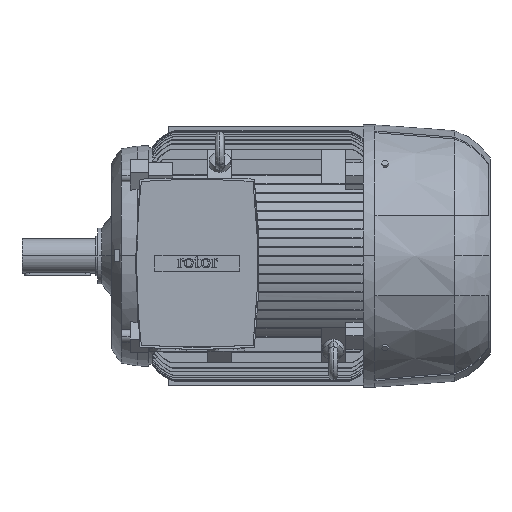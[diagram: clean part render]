
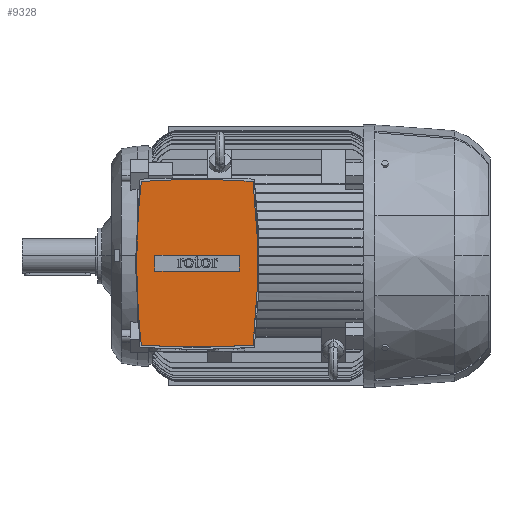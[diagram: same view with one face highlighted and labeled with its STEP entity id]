
A CAD part, top view. The second image highlights one B-rep face of the part: STEP entity #9328.
In plain terms, the highlighted planar face has unit normal (0, 0, 1).
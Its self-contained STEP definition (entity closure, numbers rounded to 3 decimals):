
#1093 = CIRCLE ( 'NONE', #15184, 1403.6 ) ;
#1765 = DIRECTION ( 'NONE',  ( -1., 0., 0. ) ) ;
#3617 = AXIS2_PLACEMENT_3D ( 'NONE', #30927, #31795, #32147 ) ;
#3917 = CARTESIAN_POINT ( 'NONE',  ( 92., -29.5, 410. ) ) ;
#4782 = ORIENTED_EDGE ( 'NONE', *, *, #35733, .F. ) ;
#4812 = CARTESIAN_POINT ( 'NONE',  ( 172., -29.5, 410. ) ) ;
#6155 = VECTOR ( 'NONE', #14984, 1000. ) ;
#6252 = LINE ( 'NONE', #49562, #6155 ) ;
#6476 = EDGE_LOOP ( 'NONE', ( #40684, #4782, #27539, #50854, #22419 ) ) ;
#6526 = VERTEX_POINT ( 'NONE', #17008 ) ;
#7005 = VECTOR ( 'NONE', #36252, 1000. ) ;
#7063 = DIRECTION ( 'NONE',  ( 0., 0., -1. ) ) ;
#7401 = CIRCLE ( 'NONE', #26388, 1403.6 ) ;
#7510 = EDGE_CURVE ( 'NONE', #55130, #37878, #1093, .T. ) ;
#7621 = LINE ( 'NONE', #31916, #7005 ) ;
#8543 = VERTEX_POINT ( 'NONE', #17320 ) ;
#9328 = ADVANCED_FACE ( 'NONE', ( #11855, #11099 ), #31541, .T. ) ;
#9750 = VECTOR ( 'NONE', #42910, 1000. ) ;
#10160 = LINE ( 'NONE', #25372, #9750 ) ;
#10745 = VERTEX_POINT ( 'NONE', #50428 ) ;
#11099 = FACE_BOUND ( 'NONE', #44108, .T. ) ;
#11845 = VERTEX_POINT ( 'NONE', #30394 ) ;
#11855 = FACE_OUTER_BOUND ( 'NONE', #6476, .T. ) ;
#14052 = AXIS2_PLACEMENT_3D ( 'NONE', #15991, #46225, #20351 ) ;
#14984 = DIRECTION ( 'NONE',  ( 0., -1., 0. ) ) ;
#15184 = AXIS2_PLACEMENT_3D ( 'NONE', #51731, #51795, #51871 ) ;
#15887 = AXIS2_PLACEMENT_3D ( 'NONE', #53601, #27627, #1765 ) ;
#15991 = CARTESIAN_POINT ( 'NONE',  ( 92., -1295.44, 410. ) ) ;
#17008 = CARTESIAN_POINT ( 'NONE',  ( 12., -29.5, 410. ) ) ;
#17320 = CARTESIAN_POINT ( 'NONE',  ( 197.904, -169.6, 410. ) ) ;
#17961 = VECTOR ( 'NONE', #25611, 1000. ) ;
#18358 = CIRCLE ( 'NONE', #38978, 1439.94 ) ;
#18712 = LINE ( 'NONE', #3917, #17961 ) ;
#20351 = DIRECTION ( 'NONE',  ( -1., 0., 0. ) ) ;
#20637 = CARTESIAN_POINT ( 'NONE',  ( -1197.1, -14.5, 410. ) ) ;
#20724 = CARTESIAN_POINT ( 'NONE',  ( -13.904, -169.6, 410. ) ) ;
#22419 = ORIENTED_EDGE ( 'NONE', *, *, #36158, .F. ) ;
#23127 = ORIENTED_EDGE ( 'NONE', *, *, #34019, .T. ) ;
#24991 = DIRECTION ( 'NONE',  ( -1., 0., 0. ) ) ;
#25372 = CARTESIAN_POINT ( 'NONE',  ( 12., -14.5, 410. ) ) ;
#25611 = DIRECTION ( 'NONE',  ( -1., 0., 0. ) ) ;
#26300 = ORIENTED_EDGE ( 'NONE', *, *, #34849, .T. ) ;
#26317 = CARTESIAN_POINT ( 'NONE',  ( 172., 0.5, 410. ) ) ;
#26388 = AXIS2_PLACEMENT_3D ( 'NONE', #20637, #50928, #24991 ) ;
#27539 = ORIENTED_EDGE ( 'NONE', *, *, #7510, .F. ) ;
#27627 = DIRECTION ( 'NONE',  ( 0., 0., -1. ) ) ;
#27930 = VERTEX_POINT ( 'NONE', #39658 ) ;
#30394 = CARTESIAN_POINT ( 'NONE',  ( -13.904, 140.6, 410. ) ) ;
#30927 = CARTESIAN_POINT ( 'NONE',  ( 92., -14.5, 410. ) ) ;
#31541 = PLANE ( 'NONE',  #3617 ) ;
#31795 = DIRECTION ( 'NONE',  ( 0., 0., 1. ) ) ;
#31916 = CARTESIAN_POINT ( 'NONE',  ( 92., 0.5, 410. ) ) ;
#32147 = DIRECTION ( 'NONE',  ( 1., 0., 0. ) ) ;
#32895 = CARTESIAN_POINT ( 'NONE',  ( 92., 1266.44, 410. ) ) ;
#34019 = EDGE_CURVE ( 'NONE', #42352, #6526, #18712, .T. ) ;
#34586 = EDGE_CURVE ( 'NONE', #6526, #10745, #10160, .T. ) ;
#34771 = EDGE_CURVE ( 'NONE', #10745, #52407, #7621, .T. ) ;
#34849 = EDGE_CURVE ( 'NONE', #52407, #42352, #6252, .T. ) ;
#35293 = CIRCLE ( 'NONE', #15887, 1403.6 ) ;
#35419 = EDGE_CURVE ( 'NONE', #11845, #27930, #41752, .T. ) ;
#35461 = ORIENTED_EDGE ( 'NONE', *, *, #34586, .T. ) ;
#35733 = EDGE_CURVE ( 'NONE', #37878, #11845, #35293, .T. ) ;
#35851 = EDGE_CURVE ( 'NONE', #8543, #55130, #18358, .T. ) ;
#36158 = EDGE_CURVE ( 'NONE', #27930, #8543, #7401, .T. ) ;
#36252 = DIRECTION ( 'NONE',  ( 1., 0., 0. ) ) ;
#37222 = DIRECTION ( 'NONE',  ( -1., 0., 0. ) ) ;
#37878 = VERTEX_POINT ( 'NONE', #45104 ) ;
#38978 = AXIS2_PLACEMENT_3D ( 'NONE', #32895, #7063, #37222 ) ;
#39658 = CARTESIAN_POINT ( 'NONE',  ( 197.904, 140.6, 410. ) ) ;
#40684 = ORIENTED_EDGE ( 'NONE', *, *, #35419, .F. ) ;
#41752 = CIRCLE ( 'NONE', #14052, 1439.94 ) ;
#42352 = VERTEX_POINT ( 'NONE', #4812 ) ;
#42910 = DIRECTION ( 'NONE',  ( 0., 1., 0. ) ) ;
#44108 = EDGE_LOOP ( 'NONE', ( #50049, #26300, #23127, #35461 ) ) ;
#45104 = CARTESIAN_POINT ( 'NONE',  ( -22.5, -14.5, 410. ) ) ;
#46225 = DIRECTION ( 'NONE',  ( 0., 0., -1. ) ) ;
#49562 = CARTESIAN_POINT ( 'NONE',  ( 172., -14.5, 410. ) ) ;
#50049 = ORIENTED_EDGE ( 'NONE', *, *, #34771, .T. ) ;
#50428 = CARTESIAN_POINT ( 'NONE',  ( 12., 0.5, 410. ) ) ;
#50854 = ORIENTED_EDGE ( 'NONE', *, *, #35851, .F. ) ;
#50928 = DIRECTION ( 'NONE',  ( 0., 0., -1. ) ) ;
#51731 = CARTESIAN_POINT ( 'NONE',  ( 1381.1, -14.5, 410. ) ) ;
#51795 = DIRECTION ( 'NONE',  ( 0., 0., -1. ) ) ;
#51871 = DIRECTION ( 'NONE',  ( -1., 0., 0. ) ) ;
#52407 = VERTEX_POINT ( 'NONE', #26317 ) ;
#53601 = CARTESIAN_POINT ( 'NONE',  ( 1381.1, -14.5, 410. ) ) ;
#55130 = VERTEX_POINT ( 'NONE', #20724 ) ;
